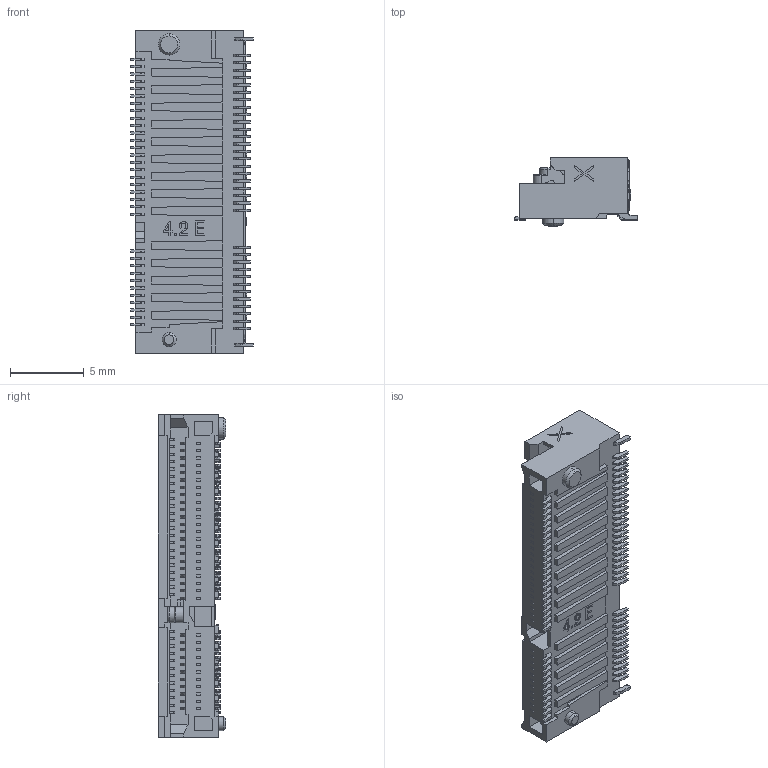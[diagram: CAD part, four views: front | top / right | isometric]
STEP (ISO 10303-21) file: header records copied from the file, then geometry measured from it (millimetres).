
FILE_DESCRIPTION((''),'2;1');
FILE_NAME('123A-42E02_C_1','2024-09-10T',('fros.liao'),(''),'CREO PARAMETRIC BY PTC INC, 2015080','CREO PARAMETRIC BY PTC INC, 2015080','');
FILE_SCHEMA(('CONFIG_CONTROL_DESIGN'));
Products named in the file (1): 123A-42E02_C_1
Bounding box: 8.3 x 4.6 x 21.85 mm (x, y, z)
Volume: 424.6 mm3; surface area: 1186.1 mm2
Topology: 1 solids, 1 shells, 3738 faces, 10923 edges, 7236 vertices
Faces by surface type: plane 2256, cylinder 939, extrusion 413, bspline 124, cone 4, torus 2
Entity records: 129075 total; most frequent: CARTESIAN_POINT 30081, ORIENTED_EDGE 21846, DIRECTION 18654, EDGE_CURVE 10923, VECTOR 8248, LINE 7835, VERTEX_POINT 7236, AXIS2_PLACEMENT_3D 5203
